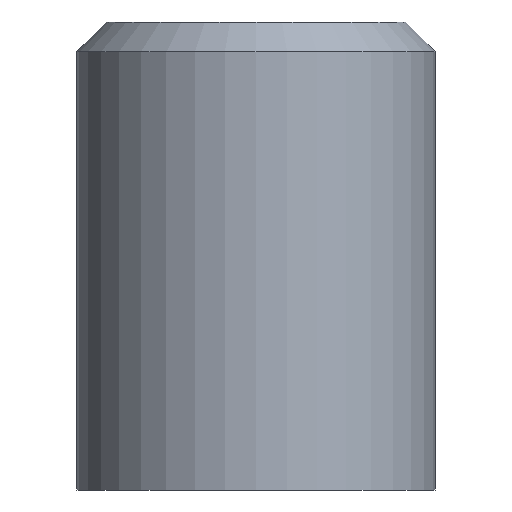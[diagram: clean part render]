
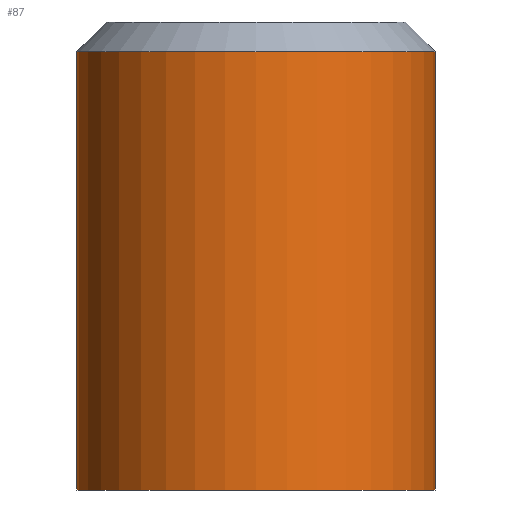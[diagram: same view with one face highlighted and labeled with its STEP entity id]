
A CAD part, front view. The second image highlights one B-rep face of the part: STEP entity #87.
In plain terms, the highlighted cylindrical face has radius 9 mm (diameter 18 mm), a full revolution.
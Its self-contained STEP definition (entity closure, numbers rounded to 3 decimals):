
#2 = CARTESIAN_POINT ( 'NONE',  ( 0., 0., 0. ) ) ;
#10 = AXIS2_PLACEMENT_3D ( 'NONE', #90, #23, #69 ) ;
#11 = AXIS2_PLACEMENT_3D ( 'NONE', #2, #99, #60 ) ;
#19 = CYLINDRICAL_SURFACE ( 'NONE', #30, 9. ) ;
#20 = EDGE_LOOP ( 'NONE', ( #80 ) ) ;
#23 = DIRECTION ( 'NONE',  ( 0., 0., -1. ) ) ;
#28 = EDGE_LOOP ( 'NONE', ( #88 ) ) ;
#30 = AXIS2_PLACEMENT_3D ( 'NONE', #102, #101, #61 ) ;
#52 = CARTESIAN_POINT ( 'NONE',  ( 9., 0., 22. ) ) ;
#60 = DIRECTION ( 'NONE',  ( 1., 0., 0. ) ) ;
#61 = DIRECTION ( 'NONE',  ( -1., 0., 0. ) ) ;
#69 = DIRECTION ( 'NONE',  ( 1., 0., 0. ) ) ;
#71 = CIRCLE ( 'NONE', #11, 9. ) ;
#75 = CARTESIAN_POINT ( 'NONE',  ( 9., 0., 0. ) ) ;
#79 = VERTEX_POINT ( 'NONE', #75 ) ;
#80 = ORIENTED_EDGE ( 'NONE', *, *, #85, .T. ) ;
#83 = EDGE_CURVE ( 'NONE', #79, #79, #71, .T. ) ;
#84 = FACE_OUTER_BOUND ( 'NONE', #20, .T. ) ;
#85 = EDGE_CURVE ( 'NONE', #91, #91, #92, .T. ) ;
#86 = FACE_OUTER_BOUND ( 'NONE', #28, .T. ) ;
#87 = ADVANCED_FACE ( 'NONE', ( #84, #86 ), #19, .T. ) ;
#88 = ORIENTED_EDGE ( 'NONE', *, *, #83, .T. ) ;
#90 = CARTESIAN_POINT ( 'NONE',  ( 0., 0., 22. ) ) ;
#91 = VERTEX_POINT ( 'NONE', #52 ) ;
#92 = CIRCLE ( 'NONE', #10, 9. ) ;
#99 = DIRECTION ( 'NONE',  ( 0., 0., 1. ) ) ;
#101 = DIRECTION ( 'NONE',  ( 0., 0., -1. ) ) ;
#102 = CARTESIAN_POINT ( 'NONE',  ( 0., 0., 23.5 ) ) ;
